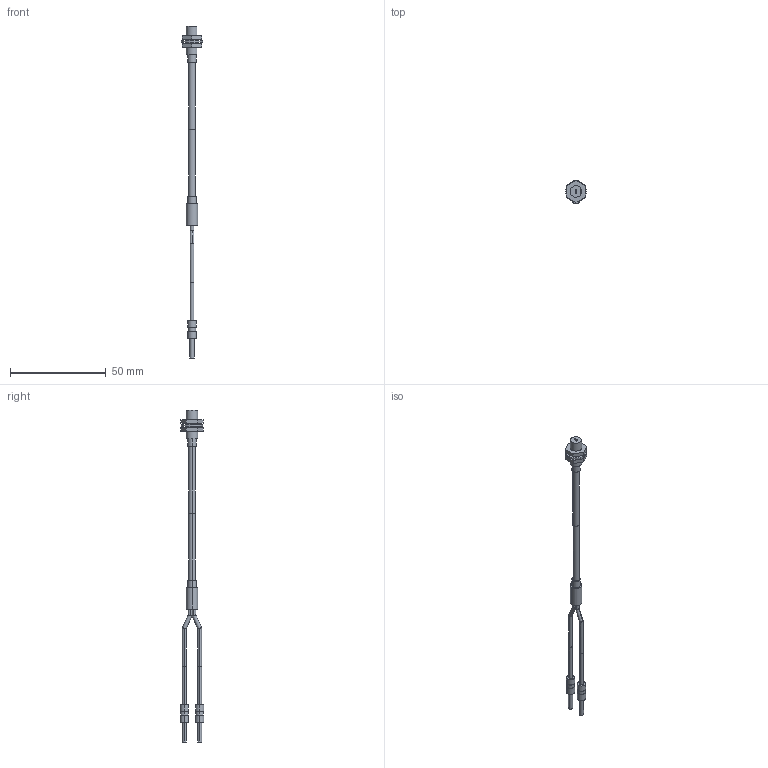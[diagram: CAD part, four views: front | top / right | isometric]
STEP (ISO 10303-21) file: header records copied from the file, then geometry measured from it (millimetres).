
FILE_DESCRIPTION (( 'STEP AP203' ), '1' );
FILE_NAME ('FD-P81X.STEP', '2005-09-04T10:16:16', ( '川島良英' ), ( ' ' ), 'SwSTEP 2.0', 'SolidWorks 2004251', '' );
FILE_SCHEMA (( 'CONFIG_CONTROL_DESIGN' ));
Length unit declared in the file: millimetre
Products named in the file (1): FD-P81X
Bounding box: 11 x 12.33 x 173.5 mm (x, y, z)
Volume: 2484.2 mm3; surface area: 3212 mm2
Topology: 7 solids, 7 shells, 98 faces, 204 edges, 136 vertices
Faces by surface type: cylinder 55, plane 43
Entity records: 2719 total; most frequent: CARTESIAN_POINT 487, DIRECTION 480, ORIENTED_EDGE 408, EDGE_CURVE 204, AXIS2_PLACEMENT_3D 193, VERTEX_POINT 136, EDGE_LOOP 120, ADVANCED_FACE 98
